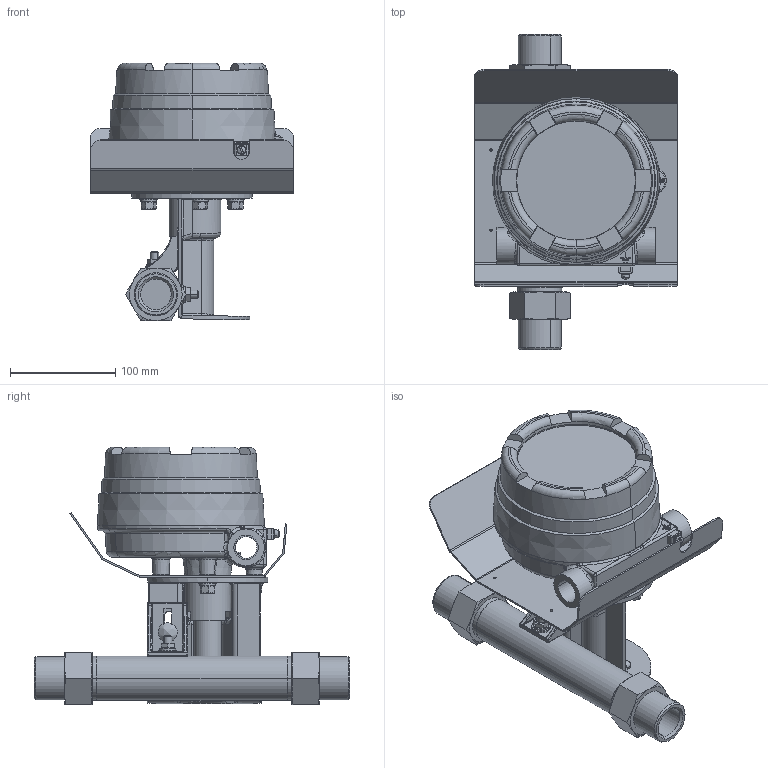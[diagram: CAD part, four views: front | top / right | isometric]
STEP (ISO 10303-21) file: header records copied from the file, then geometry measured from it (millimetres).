
FILE_DESCRIPTION (( 'STEP AP203' ), '1' );
FILE_NAME ('3809G-F-10-E-5-A-0.STEP', '2022-09-21T17:24:42', ( '' ), ( '' ), 'SwSTEP 2.0', 'SolidWorks 2020', '' );
FILE_SCHEMA (( 'CONFIG_CONTROL_DESIGN' ));
Products named in the file (1): 3809G-F-10-E-5-A-0
Bounding box: 192.53 x 300 x 244.52 mm (x, y, z)
Volume: 1395575.1 mm3; surface area: 485317.1 mm2
Topology: 39 solids, 43 shells, 1308 faces, 3079 edges, 1841 vertices
Faces by surface type: cylinder 406, plane 384, cone 260, bspline 166, torus 62, sphere 30
Entity records: 46330 total; most frequent: CARTESIAN_POINT 17416, DIRECTION 6019, ORIENTED_EDGE 6006, EDGE_CURVE 3003, AXIS2_PLACEMENT_3D 2440, VERTEX_POINT 1841, EDGE_LOOP 1450, ADVANCED_FACE 1308
